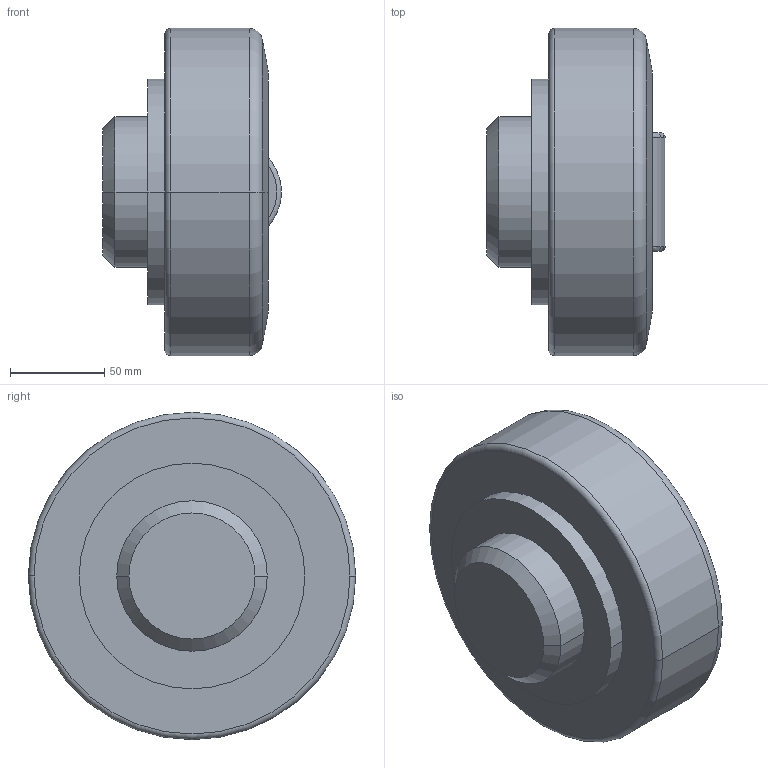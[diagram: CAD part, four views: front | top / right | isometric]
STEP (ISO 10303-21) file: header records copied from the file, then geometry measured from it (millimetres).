
FILE_DESCRIPTION (( 'STEP AP203' ), '1' );
FILE_NAME ('3D40037.STEP', '2002-11-20T09:51:32', ( 'Francesc' ), ( 'propia' ), 'SwSTEP 2.0', 'SolidWorks 2001039', '' );
FILE_SCHEMA (( 'CONFIG_CONTROL_DESIGN' ));
Length unit declared in the file: millimetre
Products named in the file (1): 2
Bounding box: 94.91 x 174 x 174 mm (x, y, z)
Volume: 1507241.8 mm3; surface area: 82606.7 mm2
Topology: 1 solids, 1 shells, 23 faces, 46 edges, 28 vertices
Faces by surface type: cylinder 7, torus 6, plane 6, cone 4
Entity records: 737 total; most frequent: CARTESIAN_POINT 162, DIRECTION 118, ORIENTED_EDGE 92, AXIS2_PLACEMENT_3D 52, EDGE_CURVE 46, VERTEX_POINT 28, CIRCLE 28, EDGE_LOOP 26
